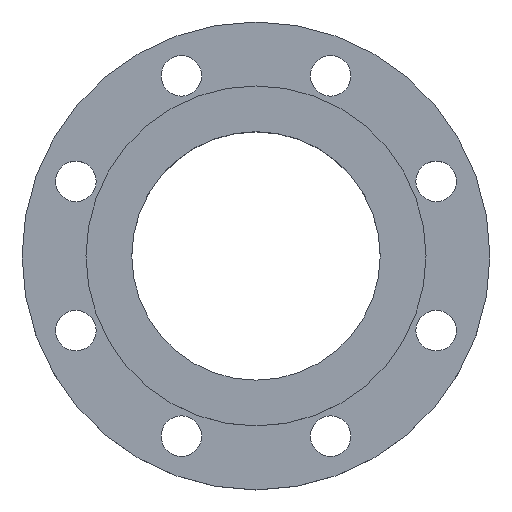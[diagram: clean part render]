
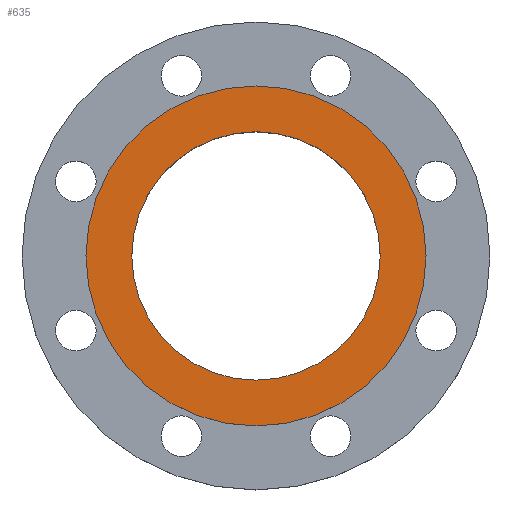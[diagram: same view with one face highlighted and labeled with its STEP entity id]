
A CAD part, top view. The second image highlights one B-rep face of the part: STEP entity #635.
In plain terms, the highlighted planar face has unit normal (0, 0, 1).
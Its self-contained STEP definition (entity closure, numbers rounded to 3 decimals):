
#41 = ORIENTED_EDGE ( 'NONE', *, *, #956, .F. ) ;
#101 = ORIENTED_EDGE ( 'NONE', *, *, #807, .F. ) ;
#169 = CARTESIAN_POINT ( 'NONE',  ( 0., 0., 4.5 ) ) ;
#223 = CIRCLE ( 'NONE', #224, 79.65 ) ;
#224 = AXIS2_PLACEMENT_3D ( 'NONE', #799, #1124, #373 ) ;
#257 = ORIENTED_EDGE ( 'NONE', *, *, #927, .T. ) ;
#304 = DIRECTION ( 'NONE',  ( 1., 0., 0. ) ) ;
#317 = CIRCLE ( 'NONE', #323, 109. ) ;
#323 = AXIS2_PLACEMENT_3D ( 'NONE', #410, #750, #1072 ) ;
#335 = CARTESIAN_POINT ( 'NONE',  ( 109., 0., 4.5 ) ) ;
#344 = AXIS2_PLACEMENT_3D ( 'NONE', #746, #1067, #304 ) ;
#363 = VERTEX_POINT ( 'NONE', #456 ) ;
#373 = DIRECTION ( 'NONE',  ( 1., 0., 0. ) ) ;
#374 = CIRCLE ( 'NONE', #556, 109. ) ;
#410 = CARTESIAN_POINT ( 'NONE',  ( 0., 0., 4.5 ) ) ;
#421 = CARTESIAN_POINT ( 'NONE',  ( -109., 0., 4.5 ) ) ;
#426 = FACE_OUTER_BOUND ( 'NONE', #450, .T. ) ;
#450 = EDGE_LOOP ( 'NONE', ( #796, #257 ) ) ;
#456 = CARTESIAN_POINT ( 'NONE',  ( 109., 0., 4.5 ) ) ;
#536 = VERTEX_POINT ( 'NONE', #751 ) ;
#556 = AXIS2_PLACEMENT_3D ( 'NONE', #169, #567, #896 ) ;
#567 = DIRECTION ( 'NONE',  ( 0., 0., 1. ) ) ;
#608 = VERTEX_POINT ( 'NONE', #421 ) ;
#627 = AXIS2_PLACEMENT_3D ( 'NONE', #335, #685, #1011 ) ;
#635 = ADVANCED_FACE ( 'NONE', ( #426, #767 ), #1088, .T. ) ;
#685 = DIRECTION ( 'NONE',  ( 0., 0., 1. ) ) ;
#696 = CIRCLE ( 'NONE', #344, 79.65 ) ;
#746 = CARTESIAN_POINT ( 'NONE',  ( 0., 0., 4.5 ) ) ;
#750 = DIRECTION ( 'NONE',  ( 0., 0., 1. ) ) ;
#751 = CARTESIAN_POINT ( 'NONE',  ( -79.65, 0., 4.5 ) ) ;
#767 = FACE_BOUND ( 'NONE', #1146, .T. ) ;
#796 = ORIENTED_EDGE ( 'NONE', *, *, #965, .T. ) ;
#799 = CARTESIAN_POINT ( 'NONE',  ( 0., 0., 4.5 ) ) ;
#807 = EDGE_CURVE ( 'NONE', #1019, #536, #223, .T. ) ;
#896 = DIRECTION ( 'NONE',  ( 1., 0., 0. ) ) ;
#920 = CARTESIAN_POINT ( 'NONE',  ( 79.65, 0., 4.5 ) ) ;
#927 = EDGE_CURVE ( 'NONE', #608, #363, #374, .T. ) ;
#956 = EDGE_CURVE ( 'NONE', #536, #1019, #696, .T. ) ;
#965 = EDGE_CURVE ( 'NONE', #363, #608, #317, .T. ) ;
#1011 = DIRECTION ( 'NONE',  ( 1., 0., 0. ) ) ;
#1019 = VERTEX_POINT ( 'NONE', #920 ) ;
#1067 = DIRECTION ( 'NONE',  ( 0., 0., 1. ) ) ;
#1072 = DIRECTION ( 'NONE',  ( 1., 0., 0. ) ) ;
#1088 = PLANE ( 'NONE',  #627 ) ;
#1124 = DIRECTION ( 'NONE',  ( 0., 0., 1. ) ) ;
#1146 = EDGE_LOOP ( 'NONE', ( #101, #41 ) ) ;
